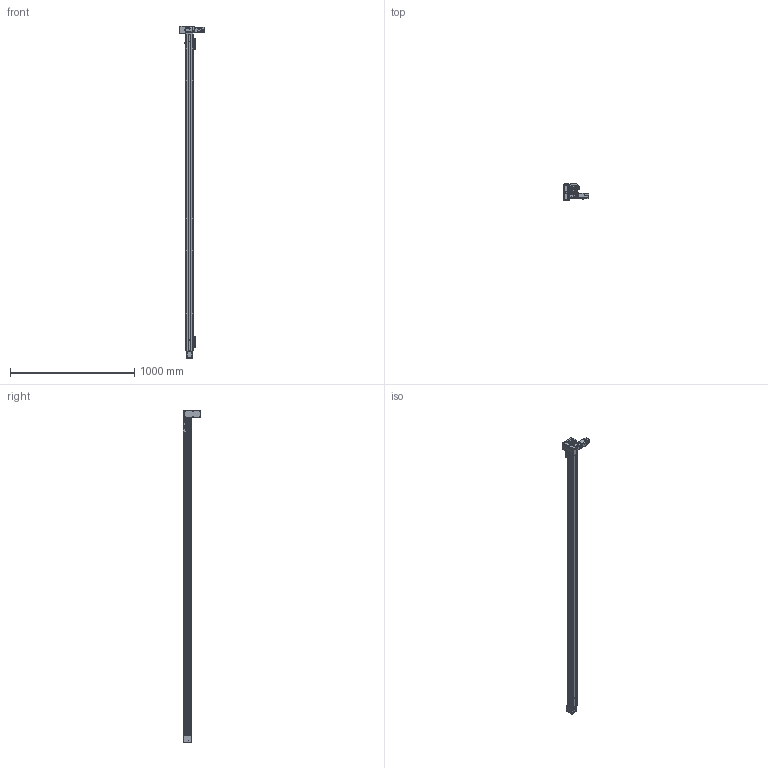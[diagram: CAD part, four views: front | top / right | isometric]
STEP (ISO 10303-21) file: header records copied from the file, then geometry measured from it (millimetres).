
FILE_DESCRIPTION(/* description */ (''),/* implementation_level */ '2;1');
FILE_NAME(/* name */ '\\192.168.0.160\disk1\HAN SHIN Master\B-설계부문\C-표준\B-2024년\BC02-표준도면\+로봇 개선표준도면\홈페이지 표준 도면\홈페이지 최종 작업 폴더\3D\HB\HSB55\HB55-DL1G-N-2400-R.stp',/* time_stamp */ '2025-06-03T10:27:13+09:00',/* author */ ('user'),/* organization */ (''),/* preprocessor_version */ 'ST-DEVELOPER v18.1',/* originating_system */ 'Autodesk Inventor 2022',/* authorisation */ '');
FILE_SCHEMA (('AUTOMOTIVE_DESIGN { 1 0 10303 214 3 1 1 }'));
Products named in the file (39): HSB55-DL1G-N-0500-R; HSB55 BASE; HSB55 TABLE; UPCOVER; HSB55 HOUSING (Connecting); HSB160 SHAFT-1; HSB55 FRONT HOUSIONG; HSB55 REAR SHAFT-1; HSB55 REAR SHAFT; HSB55 DOWN CLAMP; M4-25(렌치볼트); HSB55 HOUSING-R1; HSB55 TENSION PLATE; ISO 4032 - M4; HSB160 BEARING OVER; HSB55 UP CLAMP; HR45 SENSOR DOG; HR45 SENSOR RAIL; hsr_ftht_A-M6F_grease_nipple_joint; NIPPLE CAP(신규); HR45 STOPPER; HSB55 END COVER; EC-6202ZZ; EC-6202ZZ Inner ring; EC-6202ZZ Outer ring; EC-6202ZZ St; EC-6202ZZ Ball; EC-6202ZZ B1; HSB55 ACRYL COVER-R1; HSB55 ACRYL COVER; EE_SX674A; PGX44-H-1_3; hg-kr13_; MOTOR PLATE-100W(MITSUBISHI); HR65-BELT COVER-COVER; HR65-BELT COVER-COVER3; HSB55 D MOTOR PLATE; HSB55 D BELT COVER; HR65-BELT COVER-COVER2
Assembly tree (62 placements, depth 3):
  HSB55-DL1G-N-0500-R
    HSB55 BASE
    HSB55 TABLE
    UPCOVER
    HSB55 FRONT HOUSIONG  x2
    HSB55 HOUSING (Connecting)
    HSB160 SHAFT-1
    HSB55 REAR SHAFT-1
    #134130  x2
    HSB55 REAR SHAFT
    HSB55 DOWN CLAMP  x2
    HSB55 UP CLAMP  x2
    M4-25(렌치볼트)
    ISO 4032 - M4  x2
    HSB55 HOUSING-R1
    HSB55 TENSION PLATE  x2
    HSB160 BEARING OVER
    HR45 SENSOR DOG
    HR45 SENSOR RAIL  x2
    EE_SX674A  x3
    hsr_ftht_A-M6F_grease_nipple_joint
    NIPPLE CAP(신규)
    HR45 STOPPER  x2
    HSB55 END COVER
    EC-6202ZZ  x2
      EC-6202ZZ Inner ring
      EC-6202ZZ Outer ring
      EC-6202ZZ B1
      EC-6202ZZ St
      EC-6202ZZ Ball
    HSB55 ACRYL COVER  x4
    HSB55 ACRYL COVER-R1
    PGX44-H-1_3
    hg-kr13_
    MOTOR PLATE-100W(MITSUBISHI)
    HR65-BELT COVER-COVER
    HR65-BELT COVER-COVER3
    HSB55 D MOTOR PLATE
    HSB55 D BELT COVER
    HR65-BELT COVER-COVER2  x2
Bounding box: 201.4 x 142.7 x 2670 mm (x, y, z)
Volume: 3953140 mm3; surface area: 1646412.5 mm2
Topology: 88 solids, 88 shells, 5289 faces, 14577 edges, 9533 vertices
Faces by surface type: plane 3658, cylinder 1265, cone 287, torus 35, sphere 22, bspline 22
Full cylindrical faces by diameter (mm): 1 x2, 2 x3, 2.013 x4, 2.459 x96, 2.5 x5, 3 x3, 3.242 x82, 3.3 x9, 3.4 x22, 3.5 x75, 4 x11, 4.134 x26, 4.2 x4, 4.5 x45, 4.917 x2, 5 x8, 5.5 x1, 5.6 x3, 5.9 x2, 6 x46, 6.5 x4, 7 x5, 7.5 x4, 8 x21, 8.2 x1, 9 x2, 9.5 x2, 10 x1, 11.5 x2, 12 x6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
Entity records: 134080 total; most frequent: CARTESIAN_POINT 27263, ORIENTED_EDGE 22004, DIRECTION 21599, EDGE_CURVE 11002, LINE 7675, VECTOR 7675, VERTEX_POINT 7233, AXIS2_PLACEMENT_3D 6962
